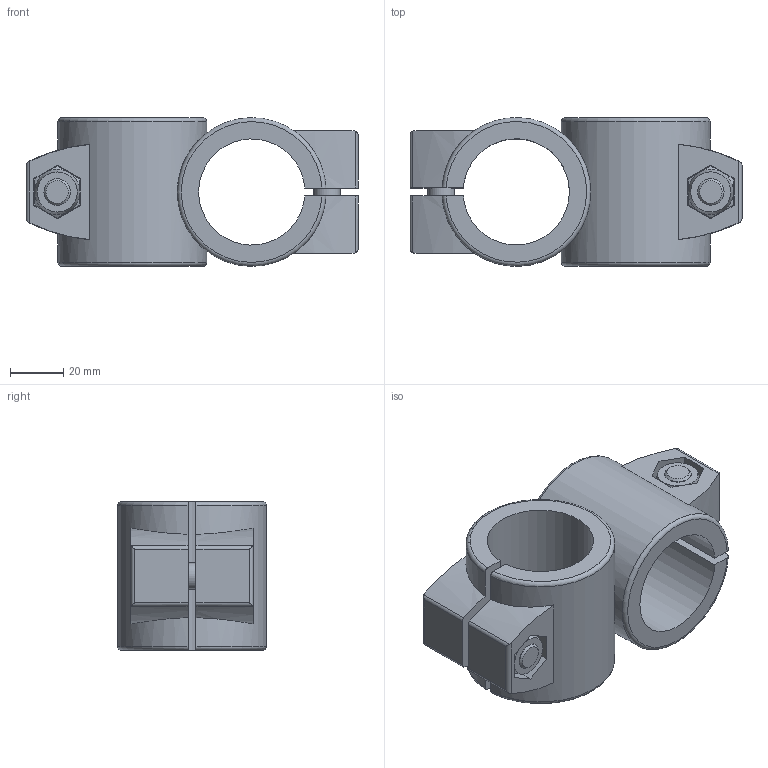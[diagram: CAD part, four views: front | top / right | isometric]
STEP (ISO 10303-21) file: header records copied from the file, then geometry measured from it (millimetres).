
FILE_DESCRIPTION( ( 'STEP AP214' ), ' ' );
FILE_NAME( 'p:/temp/worker_17/3180_3396/app_61_02015092609545468018466192d056f_000000_00_00_000000/format_0/Two-way connecting clamps GN 132-B40-B40-56-1-BL.stp', '2015-09-26T07:54:55', ( '' ), ( '' ), ' ', 'PARTsolutions', ' ' );
FILE_SCHEMA( ( 'AUTOMOTIVE_DESIGN { 1 0 10303 214 1 1 1 1 }' ) );
Length unit declared in the file: millimetre
Products named in the file (1): _Two-way connecting clamps GN 132-B40-B40-56-1-BL
Bounding box: 125 x 56 x 56 mm (x, y, z)
Volume: 158090.3 mm3; surface area: 46052.7 mm2
Topology: 1 solids, 1 shells, 120 faces, 308 edges, 204 vertices
Faces by surface type: plane 76, cylinder 30, cone 10, torus 4
Full cylindrical faces by diameter (mm): 10 x4, 16 x2
Entity records: 5032 total; most frequent: CARTESIAN_POINT 1252, ORIENTED_EDGE 574, DIRECTION 546, EDGE_CURVE 287, VERTEX_POINT 199, AXIS2_PLACEMENT_3D 187, LINE 172, VECTOR 172
